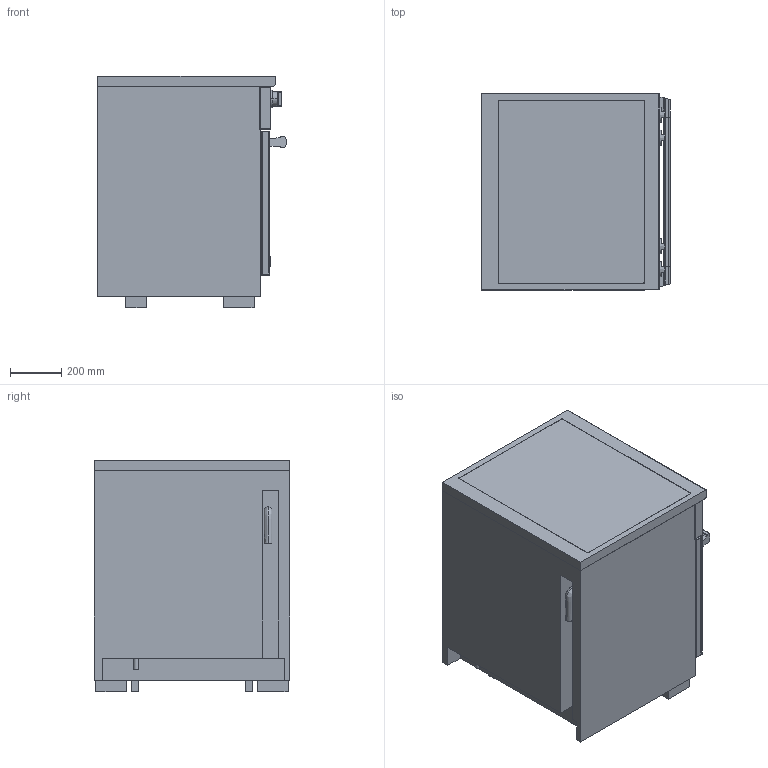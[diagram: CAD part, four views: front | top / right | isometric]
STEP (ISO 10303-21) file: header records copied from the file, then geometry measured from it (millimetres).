
FILE_DESCRIPTION(/* description */ (''),/* implementation_level */ '2;1');
FILE_NAME(/* name */ '25162251USA_HR1622_CLST',/* time_stamp */ '2014-08-14T11:37:21+02:00',/* author */ (''),/* organization */ (''),/* preprocessor_version */ 'ST-DEVELOPER v10',/* originating_system */ '',/* authorisation */ '');
FILE_SCHEMA (('AUTOMOTIVE_DESIGN_CC2'));
Length unit declared in the file: millimetre
Products named in the file (1): 1
Bounding box: 734.75 x 762.22 x 901.98 mm (x, y, z)
Volume: 292929059.3 mm3; surface area: 8781309.1 mm2
Topology: 72 solids, 73 shells, 582 faces, 1253 edges, 806 vertices
Faces by surface type: bspline 582
Entity records: 27068 total; most frequent: CARTESIAN_POINT 18515, ORIENTED_EDGE 2478, EDGE_CURVE 1241, B_SPLINE_CURVE_WITH_KNOTS 1025, VERTEX_POINT 806, EDGE_LOOP 590, ADVANCED_FACE 582, FACE_OUTER_BOUND 582
